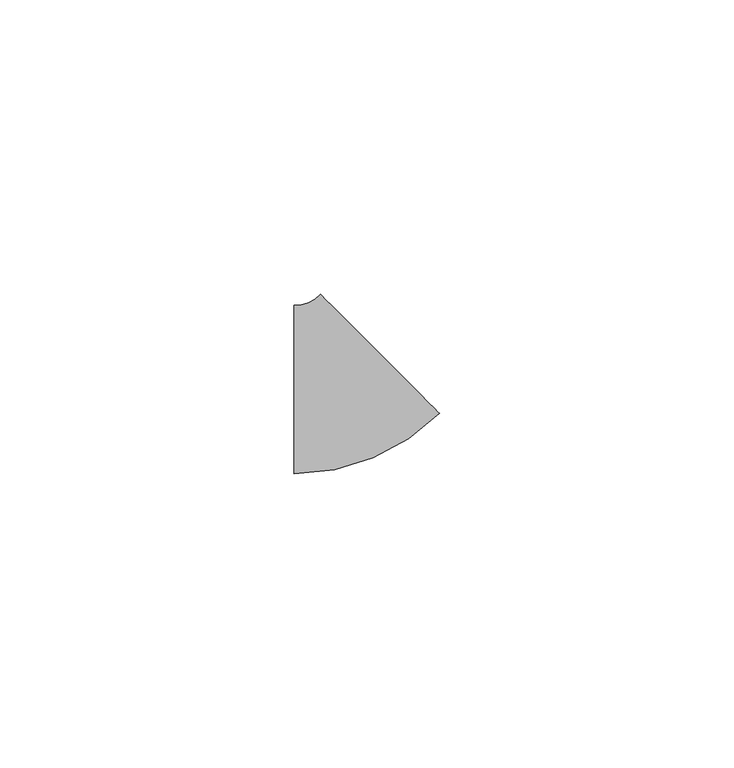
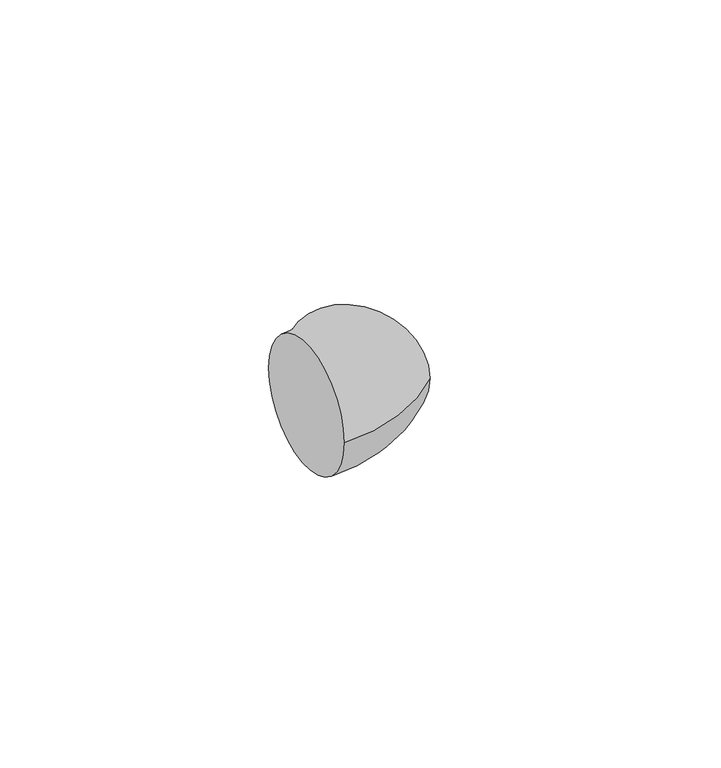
"""IFC4 building model written with IfcOpenShell, lengths in millimetres: pipe fitting geometry, M_Codo - Genérico : Estándar."""

import ifcopenshell
import ifcopenshell.guid

model = None  # the IFC model being written
_history = None  # IfcOwnerHistory: only IFC2X3 demands one
_inside = {}  # id of a spatial element -> (the spatial element, [elements in it])
_under = {}  # id of a project, library or spatial element -> (it, [spatial elements below it])
_declared = {}  # id of a project -> (the project, [libraries it declares])
_typed = {}  # id of a type object -> (the type object, [elements of that type])
_made_of = {}  # id of a material, layer set ... -> (it, [elements and type objects made of it])


def new_model(schema):
    """Start an empty IFC model of exactly this schema.

    Asked for "IFC4X3", IfcOpenShell would pick the latest addendum, in which some entities
    have other attributes; the version numbers below select the first issue.
    IFC2X3 requires an IfcOwnerHistory on every rooted entity: one is made here for all.
    """
    global model, _history
    if schema == "IFC4X3":
        model = ifcopenshell.file(schema_version=(4, 3, 0, 0))
    else:
        model = ifcopenshell.file(schema=schema)
    _inside.clear()
    _under.clear()
    _declared.clear()
    _typed.clear()
    _made_of.clear()
    _history = None
    if model.schema == "IFC2X3":
        org = make("IfcOrganization", Name="unknown")
        user = make(
            "IfcPersonAndOrganization",
            ThePerson=make("IfcPerson", FamilyName="unknown"),
            TheOrganization=org,
        )
        app = make(
            "IfcApplication",
            ApplicationDeveloper=org,
            Version="unknown",
            ApplicationFullName="unknown",
            ApplicationIdentifier="unknown",
        )
        _history = make(
            "IfcOwnerHistory",
            OwningUser=user,
            OwningApplication=app,
            ChangeAction="ADDED",
            CreationDate=0,
        )
    return model


def make(cls, **values):
    """One entity of the class cls with the attributes given. An attribute that is None is left unset."""
    return model.create_entity(
        cls, **{name: value for name, value in values.items() if value is not None}
    )


def rooted(cls, **values):
    """An entity with a GlobalId (a new one), such as an element, a storey or a relation."""
    return make(cls, GlobalId=ifcopenshell.guid.new(), OwnerHistory=_history, **values)


def si_unit(unit_type, name, prefix=None):
    """IfcSIUnit, for example si_unit("LENGTHUNIT", "METRE", prefix="MILLI")."""
    return make("IfcSIUnit", UnitType=unit_type, Prefix=prefix, Name=name)


def assignment(units):
    """IfcUnitAssignment: the units of a project."""
    return None if units is None else make("IfcUnitAssignment", Units=units)


def point(xyz):
    """IfcCartesianPoint."""
    return None if xyz is None else make("IfcCartesianPoint", Coordinates=xyz)


def direction(xyz):
    """IfcDirection."""
    return None if xyz is None else make("IfcDirection", DirectionRatios=xyz)


def frame(location, z_axis=None, x_axis=None):
    """IfcAxis2Placement3D, a coordinate frame: its origin and axes. An axis left out is left unset."""
    return make(
        "IfcAxis2Placement3D",
        Location=point(location),
        Axis=direction(z_axis),
        RefDirection=direction(x_axis),
    )


def origin():
    """The frame at (0, 0, 0) with its axes left unset."""
    return frame((0.0, 0.0, 0.0))


def place(relative_to, where):
    """IfcLocalPlacement: puts the frame where relative to a parent placement (None: the world)."""
    return make(
        "IfcLocalPlacement", PlacementRelTo=relative_to, RelativePlacement=where
    )


def context(
    kind, dimensions, precision=None, world=None, true_north=None, identifier=None
):
    """IfcGeometricRepresentationContext, for example the 3D "Model" context."""
    return make(
        "IfcGeometricRepresentationContext",
        ContextIdentifier=identifier,
        ContextType=kind,
        CoordinateSpaceDimension=dimensions,
        Precision=precision,
        WorldCoordinateSystem=world,
        TrueNorth=true_north,
    )


def project(units=None, contexts=None):
    """IfcProject with its units and contexts."""
    return rooted(
        "IfcProject",
        Name="project",
        RepresentationContexts=contexts,
        UnitsInContext=assignment(units),
    )


def spatial(cls, under=None, at=None, **own):
    """A site, building, storey or space (cls), placed at a placement, below another one or the project."""
    s = rooted(cls, ObjectPlacement=at, **own)
    if under is not None:
        _under.setdefault(under.id(), (under, []))[1].append(s)
    return s


def circle_curve(where, radius):
    """IfcCircle in the frame where."""
    return make("IfcCircle", Position=where, Radius=radius)


def ellipse_curve(where, semi_axis1, semi_axis2):
    """IfcEllipse in the frame where."""
    return make(
        "IfcEllipse", Position=where, SemiAxis1=semi_axis1, SemiAxis2=semi_axis2
    )


def trimmed(basis, trim1, trim2, sense, master):
    """IfcTrimmedCurve: the piece of a basis curve between two trims."""
    return make(
        "IfcTrimmedCurve",
        BasisCurve=basis,
        Trim1=trim1,
        Trim2=trim2,
        SenseAgreement=sense,
        MasterRepresentation=master,
    )


def shape(context_of_items, identifier, shape_type, items):
    """IfcShapeRepresentation: the items that make up one representation, for example the "Body"."""
    return make(
        "IfcShapeRepresentation",
        ContextOfItems=context_of_items,
        RepresentationIdentifier=identifier,
        RepresentationType=shape_type,
        Items=items,
    )


def source(mapping_origin, context_of_items, identifier, shape_type, items):
    """IfcRepresentationMap: a shape defined once, which mapped items show again and again."""
    return make(
        "IfcRepresentationMap",
        MappingOrigin=mapping_origin,
        MappedRepresentation=shape(context_of_items, identifier, shape_type, items),
    )


def transform(
    local_origin,
    x_axis=None,
    y_axis=None,
    z_axis=None,
    scale=None,
    scale2=None,
    scale3=None,
    uniform=True,
):
    """IfcCartesianTransformationOperator3D, or its non-uniform kind. x_axis, y_axis, z_axis: its Axis1, 2, 3."""
    if uniform:
        return make(
            "IfcCartesianTransformationOperator3D",
            Axis1=direction(x_axis),
            Axis2=direction(y_axis),
            LocalOrigin=point(local_origin),
            Scale=scale,
            Axis3=direction(z_axis),
        )
    return make(
        "IfcCartesianTransformationOperator3DnonUniform",
        Axis1=direction(x_axis),
        Axis2=direction(y_axis),
        LocalOrigin=point(local_origin),
        Scale=scale,
        Axis3=direction(z_axis),
        Scale2=scale2,
        Scale3=scale3,
    )


def mapped(mapping_source, mapping_target):
    """IfcMappedItem: shows the shape of a source again, moved by a transform."""
    return make(
        "IfcMappedItem", MappingSource=mapping_source, MappingTarget=mapping_target
    )


def made_of(thing, what):
    """Note that an element or type object is made of a material, layer set ...; save() writes the relation."""
    if what is not None:
        _made_of.setdefault(what.id(), (what, []))[1].append(thing)
    return thing


def element(
    cls,
    number,
    at=None,
    inside=None,
    cuts=None,
    type_object=None,
    material=None,
    context=None,
    identifier="Body",
    shape_type=None,
    held_by="IfcProductDefinitionShape",
    body=None,
    shapes=None,
    **own,
):
    """One element of the class cls, such as IfcWall. Its Tag is "e" and its number.

    at: its placement. inside: the storey or other place that contains it. cuts: it is an
    opening in that element (IfcRelVoidsElement). A single representation is given by context,
    identifier, shape_type and body (its items); several are given by shapes. held_by: the class
    of the entity that holds the representations. save() writes the other relations.
    """
    e = rooted(cls, Tag="e%d" % number, ObjectPlacement=at, **own)
    if body is not None:
        shapes = [shape(context, identifier, shape_type, body)]
    if shapes is not None:
        e.Representation = make(held_by, Representations=shapes)
    if inside is not None:
        _inside.setdefault(inside.id(), (inside, []))[1].append(e)
    if cuts is not None:
        rooted(
            "IfcRelVoidsElement", RelatingBuildingElement=cuts, RelatedOpeningElement=e
        )
    if type_object is not None:
        _typed.setdefault(type_object.id(), (type_object, []))[1].append(e)
    return made_of(e, material)


def aggregate(whole, parts):
    """IfcRelAggregates: a whole, such as a stair, and the parts it consists of."""
    return rooted("IfcRelAggregates", RelatingObject=whole, RelatedObjects=parts)


def save(model, path):
    """Write the relations noted so far, then the file.

    IfcRelAggregates (storeys below a building ...), IfcRelContainedInSpatialStructure (elements
    in a storey), IfcRelDefinesByType, IfcRelAssociatesMaterial and IfcRelDeclares: one each for
    every whole, place, type object, material and project.
    """
    for whole, parts in _under.values():
        aggregate(whole, parts)
    for where, things in _inside.values():
        rooted(
            "IfcRelContainedInSpatialStructure",
            RelatedElements=things,
            RelatingStructure=where,
        )
    for kind, things in _typed.values():
        rooted("IfcRelDefinesByType", RelatedObjects=things, RelatingType=kind)
    for what, things in _made_of.values():
        rooted("IfcRelAssociatesMaterial", RelatedObjects=things, RelatingMaterial=what)
    for by, libraries in _declared.values():
        rooted("IfcRelDeclares", RelatingContext=by, RelatedDefinitions=libraries)
    model.write(path)


def plane_surface(at):
    """IfcPlane: the flat surface through the origin of the frame at, square to its z axis."""
    return make("IfcPlane", Position=at)


def revolved_surface(curve, axis_point, axis_direction):
    """IfcSurfaceOfRevolution: the curve turned about the line through axis_point along axis_direction."""
    return make(
        "IfcSurfaceOfRevolution",
        SweptCurve=make("IfcArbitraryOpenProfileDef", ProfileType="CURVE", Curve=curve),
        AxisPosition=make("IfcAxis1Placement", Location=point(axis_point), Axis=direction(axis_direction)),
    )


def advanced_brep(points, edges, surfaces, faces):
    """IfcAdvancedBrep: a solid bounded by faces that lie on surfaces and meet in shared edges.

    An edge is (start, end): straight between two places in points (the first is 0);
    or (start, end, curve); or (start, end, curve, False) where it runs against its curve.
    A face is (place in surfaces, loops), or (place, loops, False) where it looks against
    its surface's normal. A loop lists edges by number (the first is 1), with a minus sign
    where the edge is run from its end to its start. The first loop is the outer one.
    """
    corners = [point(p) for p in points]
    vertices = [make("IfcVertexPoint", VertexGeometry=c) for c in corners]
    made = []
    for start, end, *more in edges:
        made.append(
            make(
                "IfcEdgeCurve",
                EdgeStart=vertices[start],
                EdgeEnd=vertices[end],
                EdgeGeometry=more[0] if more else make("IfcPolyline", Points=[corners[start], corners[end]]),
                SameSense=more[1] if len(more) > 1 else True,
            )
        )
    hull = []
    for where, loops, *sense in faces:
        bounds = []
        for j, loop in enumerate(loops):
            ring = [make("IfcOrientedEdge", EdgeElement=made[abs(k) - 1], Orientation=k > 0) for k in loop]
            bounds.append(
                make(
                    "IfcFaceOuterBound" if j == 0 else "IfcFaceBound",
                    Bound=make("IfcEdgeLoop", EdgeList=ring),
                    Orientation=True,
                )
            )
        hull.append(make("IfcAdvancedFace", Bounds=bounds, FaceSurface=surfaces[where], SameSense=sense[0] if sense else True))
    return make("IfcAdvancedBrep", Outer=make("IfcClosedShell", CfsFaces=hull))


def pipe_fitting_52443cc6(model_context):
    return source(origin(), model_context, "Body", "AdvancedBrep", [
        advanced_brep(
        [(-8.5483324, -14.2875, 0.0), (-8.5483324, 14.2875, 0.0), (16.1473719, -4.0582043, 0.0), (-4.0582043, 16.1473719, 0.0)],
        [
            (0, 1, circle_curve(frame((-8.5483324, 0.0, 0.0), z_axis=(-1.0, 0.0, 0.0), x_axis=(0.0, 1.0, 0.0)), 14.2875)),
            (1, 0, circle_curve(frame((-8.5483324, 0.0, 0.0), z_axis=(-1.0, 0.0, 0.0), x_axis=(0.0, 1.0, 0.0)), 14.2875)),
            (2, 3, circle_curve(frame((6.0445838, 6.0445838, 0.0), z_axis=(0.7071067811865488, 0.7071067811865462, 0.0), x_axis=(-0.7071067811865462, 0.7071067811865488, 0.0)), 14.2875)),
            (3, 2, circle_curve(frame((6.0445838, 6.0445838, 0.0), z_axis=(0.7071067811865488, 0.7071067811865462, 0.0), x_axis=(-0.7071067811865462, 0.7071067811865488, 0.0)), 14.2875)),
            (3, 1, circle_curve(frame((-8.5483324, 20.6375, 0.0), z_axis=(0.0, 0.0, -1.0), x_axis=(0.0, -1.0, 0.0)), 6.35)),
            (0, 2, circle_curve(frame((-8.5483324, 20.6375, 0.0), z_axis=(0.0, 0.0, 1.0), x_axis=(0.0, -1.0, 0.0)), 34.925)),
        ],
        [
            plane_surface(frame((-8.5483324, 0.0, 0.0), z_axis=(-1.0, 0.0, 0.0), x_axis=(0.0, 0.0, 1.0))),
            plane_surface(frame((6.0445838, 6.0445838, 0.0), z_axis=(0.7071067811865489, 0.7071067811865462, 0.0), x_axis=(0.0, 0.0, 1.0))),
            revolved_surface(trimmed(ellipse_curve(frame((-8.5483324, 0.0, 0.0), z_axis=(-1.0, 0.0, 0.0), x_axis=(0.0, 1.0, 0.0)), 14.2875, 14.2875), [point((-8.5483324, -14.2875, 0.0))], [point((-8.5483324, 14.2875, 0.0))], True, "CARTESIAN"), (-8.5483324, 20.6375, 0.0), (0.0, 0.0, 1.0)),
            revolved_surface(trimmed(ellipse_curve(frame((-8.5483324, 0.0, 0.0), z_axis=(-1.0, 0.0, 0.0), x_axis=(0.0, 1.0, 0.0)), 14.2875, 14.2875), [point((-8.5483324, 14.2875, 0.0))], [point((-8.5483324, -14.2875, 0.0))], True, "CARTESIAN"), (-8.5483324, 20.6375, 0.0), (0.0, 0.0, 1.0)),
        ],
        [
            (0, [[1, 2]]),
            (1, [[3, 4]]),
            (2, [[5, -1, 6, -4]]),
            (3, [[-6, -2, -5, -3]]),
        ],
    ),
    ])


if __name__ == "__main__":
    model = new_model("IFC4")
    model_context = context("Model", 3, world=origin())
    ifc_project = project(units=[si_unit("LENGTHUNIT", "METRE", prefix="MILLI")], contexts=[model_context])
    site = spatial("IfcSite", under=ifc_project)
    building = spatial("IfcBuilding", under=site)
    placement = place(None, origin())
    pipe_fitting_shape = pipe_fitting_52443cc6(model_context)
    element("IfcPipeFitting", 1, ObjectType="M_Codo - Genérico : Estándar", at=placement, inside=building, context=model_context, shape_type="MappedRepresentation", body=[
        mapped(pipe_fitting_shape, transform((0.0, 0.0, 0.0), x_axis=(1.0, 0.0, 0.0), y_axis=(0.0, 1.0, 0.0), z_axis=(0.0, 0.0, 1.0))),
    ])
    save(model, "model.ifc")
